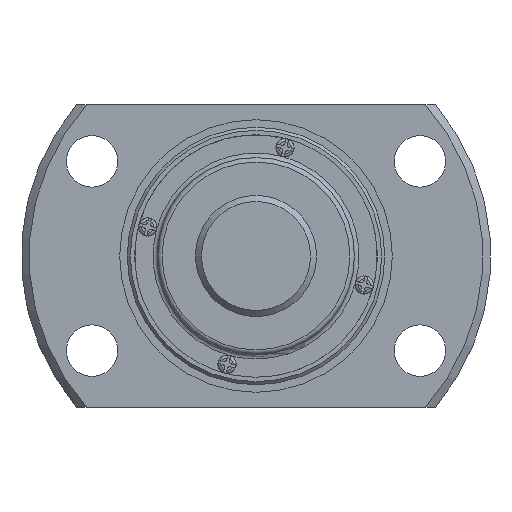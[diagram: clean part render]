
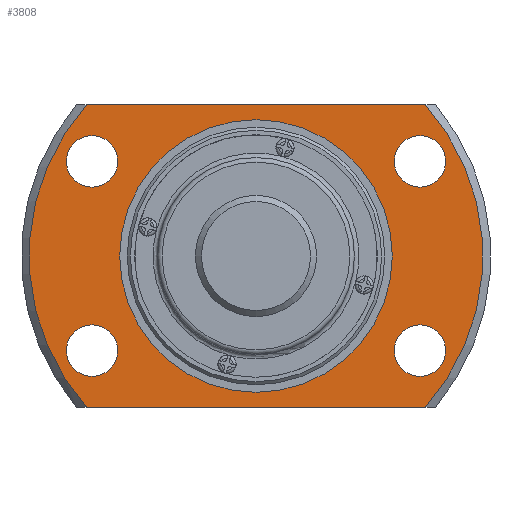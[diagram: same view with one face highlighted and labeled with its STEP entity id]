
A CAD part, left-side view. The second image highlights one B-rep face of the part: STEP entity #3808.
In plain terms, the highlighted planar face has unit normal (-1, 0, 0).
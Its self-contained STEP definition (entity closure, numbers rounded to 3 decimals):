
#212=LINE('',#6439,#476);
#213=LINE('',#6440,#477);
#476=VECTOR('',#4976,1000.);
#477=VECTOR('',#4977,1000.);
#707=PLANE('',#4200);
#1144=ORIENTED_EDGE('',*,*,#2228,.T.);
#1145=ORIENTED_EDGE('',*,*,#2229,.T.);
#1146=ORIENTED_EDGE('',*,*,#2230,.T.);
#1147=ORIENTED_EDGE('',*,*,#2231,.T.);
#1148=ORIENTED_EDGE('',*,*,#2232,.T.);
#1149=ORIENTED_EDGE('',*,*,#2223,.F.);
#1150=ORIENTED_EDGE('',*,*,#2233,.F.);
#1151=ORIENTED_EDGE('',*,*,#2226,.F.);
#1152=ORIENTED_EDGE('',*,*,#2234,.F.);
#2223=EDGE_CURVE('',#2738,#2739,#3032,.T.);
#2226=EDGE_CURVE('',#2740,#2741,#3033,.T.);
#2228=EDGE_CURVE('',#2742,#2742,#3034,.T.);
#2229=EDGE_CURVE('',#2743,#2743,#3035,.T.);
#2230=EDGE_CURVE('',#2744,#2744,#3036,.T.);
#2231=EDGE_CURVE('',#2745,#2745,#3037,.T.);
#2232=EDGE_CURVE('',#2746,#2746,#3038,.T.);
#2233=EDGE_CURVE('',#2741,#2738,#212,.T.);
#2234=EDGE_CURVE('',#2739,#2740,#213,.T.);
#2738=VERTEX_POINT('',#6409);
#2739=VERTEX_POINT('',#6411);
#2740=VERTEX_POINT('',#6421);
#2741=VERTEX_POINT('',#6423);
#2742=VERTEX_POINT('',#6430);
#2743=VERTEX_POINT('',#6432);
#2744=VERTEX_POINT('',#6434);
#2745=VERTEX_POINT('',#6436);
#2746=VERTEX_POINT('',#6438);
#3032=CIRCLE('',#4197,14.983);
#3033=CIRCLE('',#4199,14.983);
#3034=CIRCLE('',#4201,9.);
#3035=CIRCLE('',#4202,1.7);
#3036=CIRCLE('',#4203,1.7);
#3037=CIRCLE('',#4204,1.7);
#3038=CIRCLE('',#4205,1.7);
#3215=EDGE_LOOP('',(#1144));
#3216=EDGE_LOOP('',(#1145));
#3217=EDGE_LOOP('',(#1146));
#3218=EDGE_LOOP('',(#1147));
#3219=EDGE_LOOP('',(#1148));
#3220=EDGE_LOOP('',(#1149,#1150,#1151,#1152));
#3489=FACE_BOUND('',#3215,.T.);
#3490=FACE_BOUND('',#3216,.T.);
#3491=FACE_BOUND('',#3217,.T.);
#3492=FACE_BOUND('',#3218,.T.);
#3493=FACE_BOUND('',#3219,.T.);
#3494=FACE_BOUND('',#3220,.T.);
#3808=ADVANCED_FACE('',(#3489,#3490,#3491,#3492,#3493,#3494),#707,.T.);
#4197=AXIS2_PLACEMENT_3D('',#6410,#4958,#4959);
#4199=AXIS2_PLACEMENT_3D('',#6422,#4962,#4963);
#4200=AXIS2_PLACEMENT_3D('',#6428,#4964,#4965);
#4201=AXIS2_PLACEMENT_3D('',#6429,#4966,#4967);
#4202=AXIS2_PLACEMENT_3D('',#6431,#4968,#4969);
#4203=AXIS2_PLACEMENT_3D('',#6433,#4970,#4971);
#4204=AXIS2_PLACEMENT_3D('',#6435,#4972,#4973);
#4205=AXIS2_PLACEMENT_3D('',#6437,#4974,#4975);
#4958=DIRECTION('',(1.,0.,0.));
#4959=DIRECTION('',(0.,0.,-1.));
#4962=DIRECTION('',(1.,0.,0.));
#4963=DIRECTION('',(0.,0.,-1.));
#4964=DIRECTION('',(-1.,0.,0.));
#4965=DIRECTION('',(0.,0.,1.));
#4966=DIRECTION('',(1.,0.,0.));
#4967=DIRECTION('',(0.,0.,-1.));
#4968=DIRECTION('',(1.,0.,0.));
#4969=DIRECTION('',(0.,0.,-1.));
#4970=DIRECTION('',(1.,0.,0.));
#4971=DIRECTION('',(0.,0.,-1.));
#4972=DIRECTION('',(1.,0.,0.));
#4973=DIRECTION('',(0.,0.,-1.));
#4974=DIRECTION('',(1.,0.,0.));
#4975=DIRECTION('',(0.,0.,-1.));
#4976=DIRECTION('',(0.,-1.,0.));
#4977=DIRECTION('',(0.,1.,0.));
#6409=CARTESIAN_POINT('',(6.,-11.158,10.));
#6410=CARTESIAN_POINT('',(6.,0.,0.));
#6411=CARTESIAN_POINT('',(6.,-11.158,-10.));
#6421=CARTESIAN_POINT('',(6.,11.158,-10.));
#6422=CARTESIAN_POINT('',(6.,0.,0.));
#6423=CARTESIAN_POINT('',(6.,11.158,10.));
#6428=CARTESIAN_POINT('',(6.,14.983,0.));
#6429=CARTESIAN_POINT('',(6.,0.,0.));
#6430=CARTESIAN_POINT('',(6.,0.,-9.));
#6431=CARTESIAN_POINT('',(6.,-10.825,6.25));
#6432=CARTESIAN_POINT('',(6.,-10.825,4.55));
#6433=CARTESIAN_POINT('',(6.,10.825,-6.25));
#6434=CARTESIAN_POINT('',(6.,10.825,-7.95));
#6435=CARTESIAN_POINT('',(6.,-10.825,-6.25));
#6436=CARTESIAN_POINT('',(6.,-10.825,-7.95));
#6437=CARTESIAN_POINT('',(6.,10.825,6.25));
#6438=CARTESIAN_POINT('',(6.,10.825,4.55));
#6439=CARTESIAN_POINT('',(6.,16.5,10.));
#6440=CARTESIAN_POINT('',(6.,-16.5,-10.));
